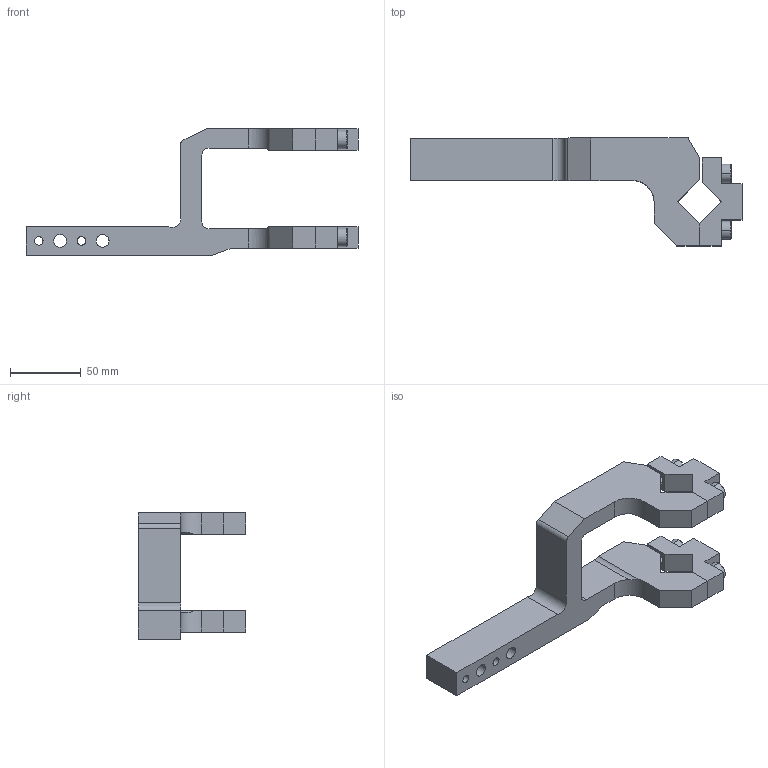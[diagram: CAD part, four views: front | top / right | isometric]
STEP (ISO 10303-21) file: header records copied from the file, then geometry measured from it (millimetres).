
FILE_DESCRIPTION((''),'2;1');
FILE_NAME('S:\Matthew\Step Files\XM Clamp Arms\XJ63-CAR-04.stp','2006-06-28T08:18:32',('Matthew'),(''),'Autodesk Inventor 8','Autodesk Inventor 8','');
FILE_SCHEMA(('AUTOMOTIVE_DESIGN { 1 0 10303 214 1 1 1 1 }'));
Length unit declared in the file: millimetre
Products named in the file (4): XJ63-CAR-04; XJ63-CAR-041; XJ63-CAR-042; XJ63-CAR-043
Assembly tree (3 placements, depth 2):
  XJ63-CAR-04
    XJ63-CAR-041
    XJ63-CAR-042
    XJ63-CAR-043
Bounding box: 234 x 76 x 89 mm (x, y, z)
Volume: 230676.7 mm3; surface area: 57262.2 mm2
Topology: 3 solids, 3 shells, 149 faces, 377 edges, 242 vertices
Faces by surface type: plane 93, bspline 32, cylinder 16, cone 8
Entity records: 4940 total; most frequent: CARTESIAN_POINT 1325, ORIENTED_EDGE 738, DIRECTION 703, EDGE_CURVE 369, VECTOR 279, LINE 279, VERTEX_POINT 242, AXIS2_PLACEMENT_3D 212
